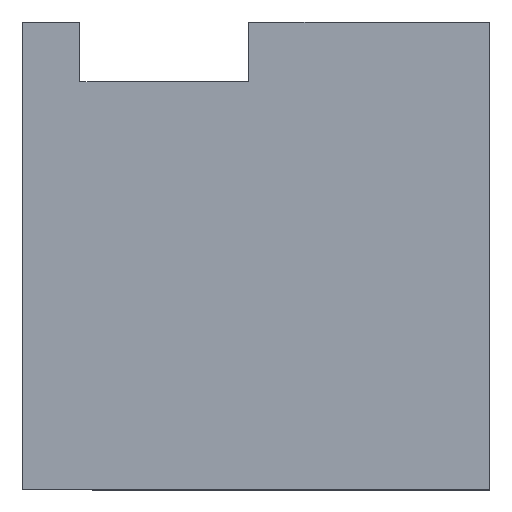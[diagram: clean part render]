
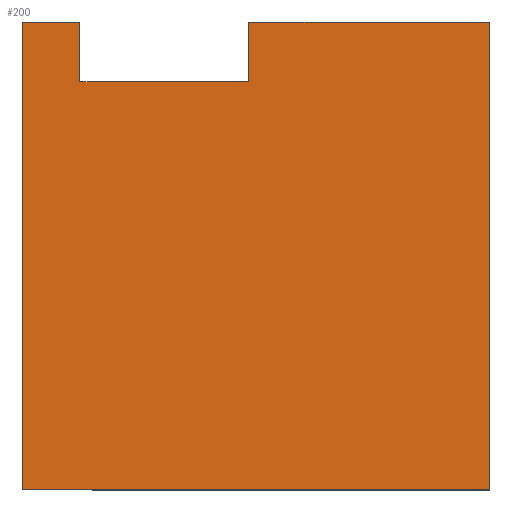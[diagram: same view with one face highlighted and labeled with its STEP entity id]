
A CAD part, top view. The second image highlights one B-rep face of the part: STEP entity #200.
In plain terms, the highlighted planar face has unit normal (0, 0, 1).
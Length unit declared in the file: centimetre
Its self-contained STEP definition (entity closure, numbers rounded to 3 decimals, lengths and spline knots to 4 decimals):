
#2 = CARTESIAN_POINT ( 'NONE',  ( 123.1999, 1000., 1000. ) ) ;
#4 = VECTOR ( 'NONE', #171, 100. ) ;
#10 = LINE ( 'NONE', #402, #395 ) ;
#14 = CARTESIAN_POINT ( 'NONE',  ( 0., 1000., 1000. ) ) ;
#20 = DIRECTION ( 'NONE',  ( 0., -1., 0. ) ) ;
#23 = LINE ( 'NONE', #368, #529 ) ;
#46 = DIRECTION ( 'NONE',  ( 0., 0., 1. ) ) ;
#72 = VERTEX_POINT ( 'NONE', #205 ) ;
#77 = CARTESIAN_POINT ( 'NONE',  ( 1000., 1000., 1000. ) ) ;
#85 = CARTESIAN_POINT ( 'NONE',  ( 0., 0., 1000. ) ) ;
#95 = VECTOR ( 'NONE', #503, 100. ) ;
#117 = LINE ( 'NONE', #356, #95 ) ;
#120 = DIRECTION ( 'NONE',  ( 0., 1., 0. ) ) ;
#156 = DIRECTION ( 'NONE',  ( 0., -1., 0. ) ) ;
#171 = DIRECTION ( 'NONE',  ( -1., 0., 0. ) ) ;
#200 = ADVANCED_FACE ( 'NONE', ( #481 ), #534, .T. ) ;
#205 = CARTESIAN_POINT ( 'NONE',  ( 0., 1000., 1000. ) ) ;
#216 = DIRECTION ( 'NONE',  ( -1., 0., 0. ) ) ;
#220 = VERTEX_POINT ( 'NONE', #423 ) ;
#222 = CARTESIAN_POINT ( 'NONE',  ( 1000., 0., 1000. ) ) ;
#240 = VECTOR ( 'NONE', #342, 100. ) ;
#247 = VERTEX_POINT ( 'NONE', #340 ) ;
#252 = VECTOR ( 'NONE', #318, 100. ) ;
#258 = ORIENTED_EDGE ( 'NONE', *, *, #382, .T. ) ;
#266 = LINE ( 'NONE', #268, #416 ) ;
#267 = ORIENTED_EDGE ( 'NONE', *, *, #488, .T. ) ;
#268 = CARTESIAN_POINT ( 'NONE',  ( 123.1999, 871.8433, 1000. ) ) ;
#273 = ORIENTED_EDGE ( 'NONE', *, *, #445, .T. ) ;
#298 = LINE ( 'NONE', #546, #240 ) ;
#318 = DIRECTION ( 'NONE',  ( 0., 1., 0. ) ) ;
#322 = VERTEX_POINT ( 'NONE', #449 ) ;
#340 = CARTESIAN_POINT ( 'NONE',  ( 484.6364, 1000., 1000. ) ) ;
#342 = DIRECTION ( 'NONE',  ( -1., 0., 0. ) ) ;
#356 = CARTESIAN_POINT ( 'NONE',  ( 0., 0., 1000. ) ) ;
#357 = ORIENTED_EDGE ( 'NONE', *, *, #521, .T. ) ;
#368 = CARTESIAN_POINT ( 'NONE',  ( 123.1999, 871.8433, 1000. ) ) ;
#382 = EDGE_CURVE ( 'NONE', #398, #72, #298, .T. ) ;
#395 = VECTOR ( 'NONE', #156, 100. ) ;
#398 = VERTEX_POINT ( 'NONE', #2 ) ;
#402 = CARTESIAN_POINT ( 'NONE',  ( 484.6364, 871.8433, 1000. ) ) ;
#407 = CARTESIAN_POINT ( 'NONE',  ( 0., 1000., 1000. ) ) ;
#409 = CARTESIAN_POINT ( 'NONE',  ( 0., 0., 1000. ) ) ;
#413 = LINE ( 'NONE', #14, #602 ) ;
#416 = VECTOR ( 'NONE', #216, 100. ) ;
#423 = CARTESIAN_POINT ( 'NONE',  ( 123.1999, 871.8433, 1000. ) ) ;
#424 = EDGE_CURVE ( 'NONE', #247, #322, #10, .T. ) ;
#444 = ORIENTED_EDGE ( 'NONE', *, *, #541, .T. ) ;
#445 = EDGE_CURVE ( 'NONE', #72, #564, #413, .T. ) ;
#449 = CARTESIAN_POINT ( 'NONE',  ( 484.6364, 871.8433, 1000. ) ) ;
#453 = ORIENTED_EDGE ( 'NONE', *, *, #424, .T. ) ;
#456 = EDGE_LOOP ( 'NONE', ( #537, #258, #273, #571, #357, #267, #453, #444 ) ) ;
#464 = LINE ( 'NONE', #605, #252 ) ;
#466 = AXIS2_PLACEMENT_3D ( 'NONE', #85, #46, #580 ) ;
#481 = FACE_OUTER_BOUND ( 'NONE', #456, .T. ) ;
#488 = EDGE_CURVE ( 'NONE', #555, #247, #613, .T. ) ;
#489 = EDGE_CURVE ( 'NONE', #220, #398, #23, .T. ) ;
#503 = DIRECTION ( 'NONE',  ( 1., 0., 0. ) ) ;
#508 = EDGE_CURVE ( 'NONE', #564, #579, #117, .T. ) ;
#521 = EDGE_CURVE ( 'NONE', #579, #555, #464, .T. ) ;
#529 = VECTOR ( 'NONE', #120, 100. ) ;
#534 = PLANE ( 'NONE',  #466 ) ;
#537 = ORIENTED_EDGE ( 'NONE', *, *, #489, .T. ) ;
#541 = EDGE_CURVE ( 'NONE', #322, #220, #266, .T. ) ;
#546 = CARTESIAN_POINT ( 'NONE',  ( 0., 1000., 1000. ) ) ;
#555 = VERTEX_POINT ( 'NONE', #77 ) ;
#564 = VERTEX_POINT ( 'NONE', #409 ) ;
#571 = ORIENTED_EDGE ( 'NONE', *, *, #508, .T. ) ;
#579 = VERTEX_POINT ( 'NONE', #222 ) ;
#580 = DIRECTION ( 'NONE',  ( 1., 0., 0. ) ) ;
#602 = VECTOR ( 'NONE', #20, 100. ) ;
#605 = CARTESIAN_POINT ( 'NONE',  ( 1000., 1000., 1000. ) ) ;
#613 = LINE ( 'NONE', #407, #4 ) ;
